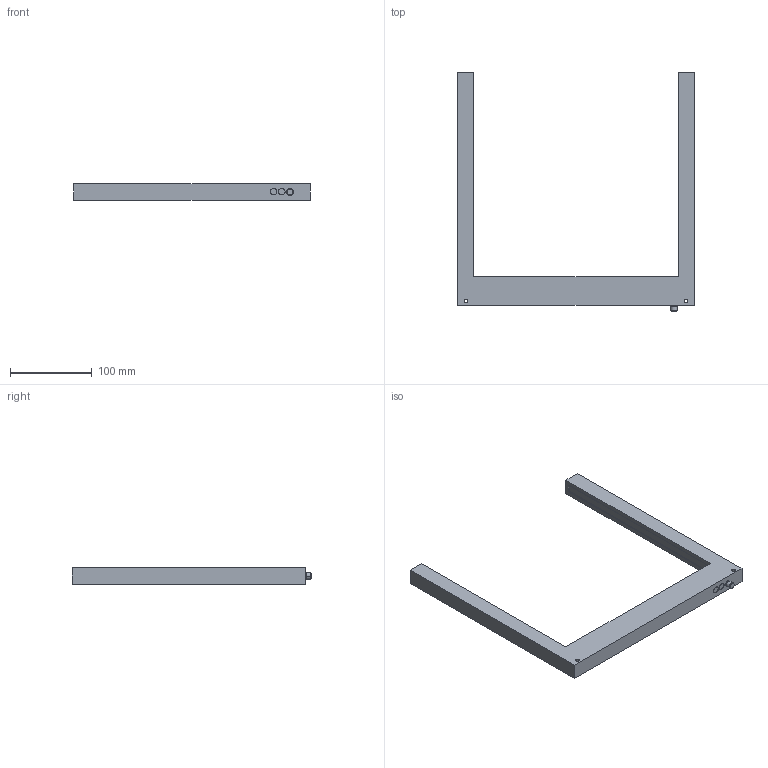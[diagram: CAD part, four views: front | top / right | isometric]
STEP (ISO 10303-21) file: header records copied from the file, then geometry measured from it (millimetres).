
FILE_DESCRIPTION(('STEP AP214'),'1');
FILE_NAME('W:/Zeichnungen/3D Modelle homepage/tmp0.step','2014-11-27T14:30:40',(' '),(' '),'Spatial InterOp 3D',' ',' ');
FILE_SCHEMA(('automotive_design'));
Length unit declared in the file: millimetre
Products named in the file (1): 3
Bounding box: 290 x 293 x 20 mm (x, y, z)
Volume: 398142.5 mm3; surface area: 74571.2 mm2
Topology: 1 solids, 1 shells, 59 faces, 144 edges, 92 vertices
Faces by surface type: plane 29, cylinder 22, cone 8
Entity records: 2238 total; most frequent: DIRECTION 316, CARTESIAN_POINT 296, ORIENTED_EDGE 288, EDGE_CURVE 144, AXIS2_PLACEMENT_3D 112, VERTEX_POINT 92, LINE 92, VECTOR 92
